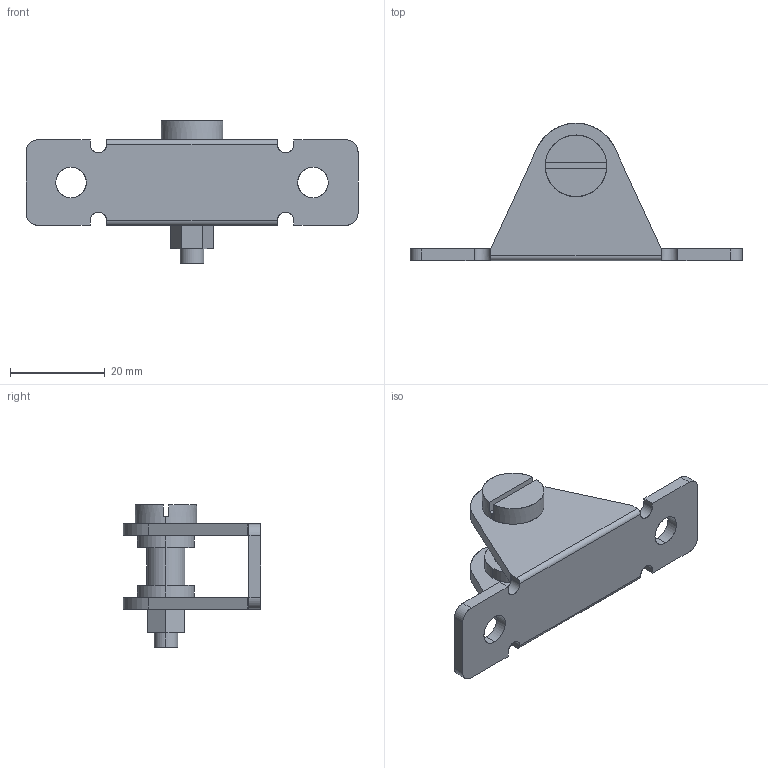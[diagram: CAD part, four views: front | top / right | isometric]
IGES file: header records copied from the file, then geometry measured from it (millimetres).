
Start section: SolidWorks IGES file using analytic representation for surfaces
Bounding box: 70 x 29 x 30 mm (x, y, z)
Surface area: 6175.4 mm2 (no closed solid volume)
Topology: 0 solids, 0 shells, 71 faces, 1072 edges, 1072 vertices
Faces by surface type: bspline 39, revolution 32
